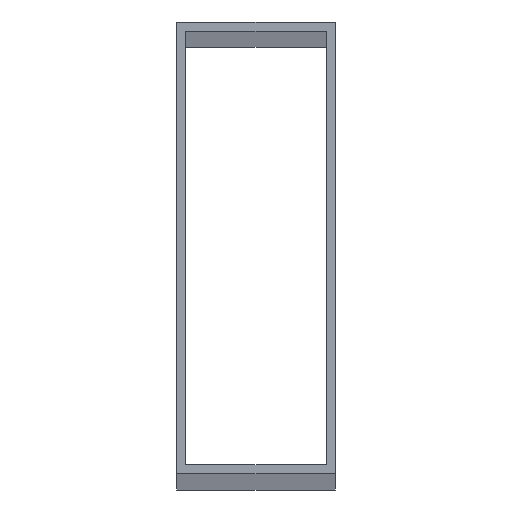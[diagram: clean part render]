
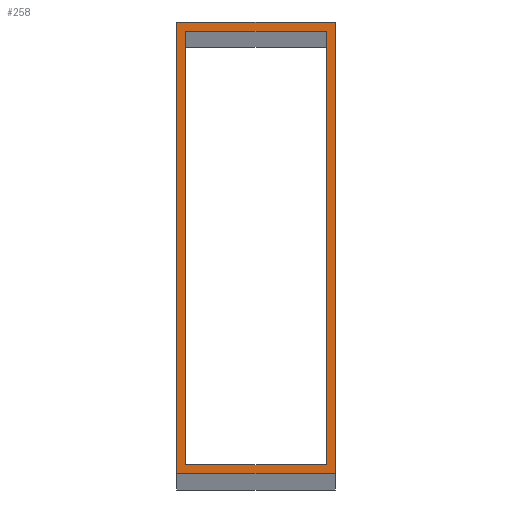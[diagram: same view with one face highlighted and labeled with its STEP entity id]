
A CAD part, top view. The second image highlights one B-rep face of the part: STEP entity #258.
In plain terms, the highlighted planar face has unit normal (0, 0, 1).
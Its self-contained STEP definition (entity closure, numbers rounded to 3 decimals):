
#3 = ORIENTED_EDGE ( 'NONE', *, *, #227, .F. ) ;
#5 = ORIENTED_EDGE ( 'NONE', *, *, #211, .F. ) ;
#16 = CARTESIAN_POINT ( 'NONE',  ( 4.65, -14.4, 0. ) ) ;
#18 = CARTESIAN_POINT ( 'NONE',  ( 5.25, 15., 0. ) ) ;
#20 = CARTESIAN_POINT ( 'NONE',  ( 4.65, 14.4, 0. ) ) ;
#25 = DIRECTION ( 'NONE',  ( 1., 0., 0. ) ) ;
#27 = PLANE ( 'NONE',  #234 ) ;
#28 = CARTESIAN_POINT ( 'NONE',  ( 5.25, -15., 0. ) ) ;
#32 = CARTESIAN_POINT ( 'NONE',  ( -4.65, 14.4, 0. ) ) ;
#38 = DIRECTION ( 'NONE',  ( 0., 0., 1. ) ) ;
#43 = CARTESIAN_POINT ( 'NONE',  ( 5.25, -15., 0. ) ) ;
#48 = CARTESIAN_POINT ( 'NONE',  ( -5.25, 15., 0. ) ) ;
#58 = CARTESIAN_POINT ( 'NONE',  ( -5.25, -15., 0. ) ) ;
#65 = CARTESIAN_POINT ( 'NONE',  ( -4.65, -14.4, 0. ) ) ;
#78 = ORIENTED_EDGE ( 'NONE', *, *, #218, .F. ) ;
#88 = ORIENTED_EDGE ( 'NONE', *, *, #246, .T. ) ;
#104 = ORIENTED_EDGE ( 'NONE', *, *, #220, .T. ) ;
#105 = ORIENTED_EDGE ( 'NONE', *, *, #240, .F. ) ;
#116 = ORIENTED_EDGE ( 'NONE', *, *, #216, .T. ) ;
#118 = ORIENTED_EDGE ( 'NONE', *, *, #249, .T. ) ;
#127 = EDGE_LOOP ( 'NONE', ( #78, #3, #5, #105 ) ) ;
#131 = EDGE_LOOP ( 'NONE', ( #104, #88, #116, #118 ) ) ;
#147 = LINE ( 'NONE', #329, #154 ) ;
#148 = LINE ( 'NONE', #333, #149 ) ;
#149 = VECTOR ( 'NONE', #332, 1000. ) ;
#153 = LINE ( 'NONE', #325, #158 ) ;
#154 = VECTOR ( 'NONE', #326, 1000. ) ;
#155 = LINE ( 'NONE', #323, #162 ) ;
#158 = VECTOR ( 'NONE', #322, 1000. ) ;
#162 = VECTOR ( 'NONE', #314, 1000. ) ;
#172 = LINE ( 'NONE', #300, #173 ) ;
#173 = VECTOR ( 'NONE', #298, 1000. ) ;
#180 = LINE ( 'NONE', #285, #181 ) ;
#181 = VECTOR ( 'NONE', #284, 1000. ) ;
#186 = LINE ( 'NONE', #276, #187 ) ;
#187 = VECTOR ( 'NONE', #273, 1000. ) ;
#190 = LINE ( 'NONE', #266, #191 ) ;
#191 = VECTOR ( 'NONE', #265, 1000. ) ;
#192 = FACE_OUTER_BOUND ( 'NONE', #131, .T. ) ;
#199 = FACE_BOUND ( 'NONE', #127, .T. ) ;
#211 = EDGE_CURVE ( 'NONE', #337, #296, #148, .T. ) ;
#216 = EDGE_CURVE ( 'NONE', #299, #313, #147, .T. ) ;
#218 = EDGE_CURVE ( 'NONE', #316, #306, #153, .T. ) ;
#220 = EDGE_CURVE ( 'NONE', #287, #290, #155, .T. ) ;
#227 = EDGE_CURVE ( 'NONE', #296, #316, #172, .T. ) ;
#234 = AXIS2_PLACEMENT_3D ( 'NONE', #43, #38, #25 ) ;
#240 = EDGE_CURVE ( 'NONE', #306, #337, #180, .T. ) ;
#246 = EDGE_CURVE ( 'NONE', #290, #299, #186, .T. ) ;
#249 = EDGE_CURVE ( 'NONE', #313, #287, #190, .T. ) ;
#258 = ADVANCED_FACE ( 'NONE', ( #199, #192 ), #27, .T. ) ;
#265 = DIRECTION ( 'NONE',  ( 0., -1., 0. ) ) ;
#266 = CARTESIAN_POINT ( 'NONE',  ( -5.25, -15., 0. ) ) ;
#273 = DIRECTION ( 'NONE',  ( 0., 1., 0. ) ) ;
#276 = CARTESIAN_POINT ( 'NONE',  ( 5.25, -15., 0. ) ) ;
#284 = DIRECTION ( 'NONE',  ( 1., 0., 0. ) ) ;
#285 = CARTESIAN_POINT ( 'NONE',  ( 0.05, -14.4, 0. ) ) ;
#287 = VERTEX_POINT ( 'NONE', #58 ) ;
#290 = VERTEX_POINT ( 'NONE', #28 ) ;
#296 = VERTEX_POINT ( 'NONE', #20 ) ;
#298 = DIRECTION ( 'NONE',  ( -1., 0., 0. ) ) ;
#299 = VERTEX_POINT ( 'NONE', #18 ) ;
#300 = CARTESIAN_POINT ( 'NONE',  ( -4.65, 14.4, 0. ) ) ;
#306 = VERTEX_POINT ( 'NONE', #65 ) ;
#313 = VERTEX_POINT ( 'NONE', #48 ) ;
#314 = DIRECTION ( 'NONE',  ( 1., 0., 0. ) ) ;
#316 = VERTEX_POINT ( 'NONE', #32 ) ;
#322 = DIRECTION ( 'NONE',  ( 0., -1., 0. ) ) ;
#323 = CARTESIAN_POINT ( 'NONE',  ( -5.25, -15., 0. ) ) ;
#325 = CARTESIAN_POINT ( 'NONE',  ( -4.65, -14.4, 0. ) ) ;
#326 = DIRECTION ( 'NONE',  ( -1., 0., 0. ) ) ;
#329 = CARTESIAN_POINT ( 'NONE',  ( -5.25, 15., 0. ) ) ;
#332 = DIRECTION ( 'NONE',  ( 0., 1., 0. ) ) ;
#333 = CARTESIAN_POINT ( 'NONE',  ( 4.65, -14.4, 0. ) ) ;
#337 = VERTEX_POINT ( 'NONE', #16 ) ;
